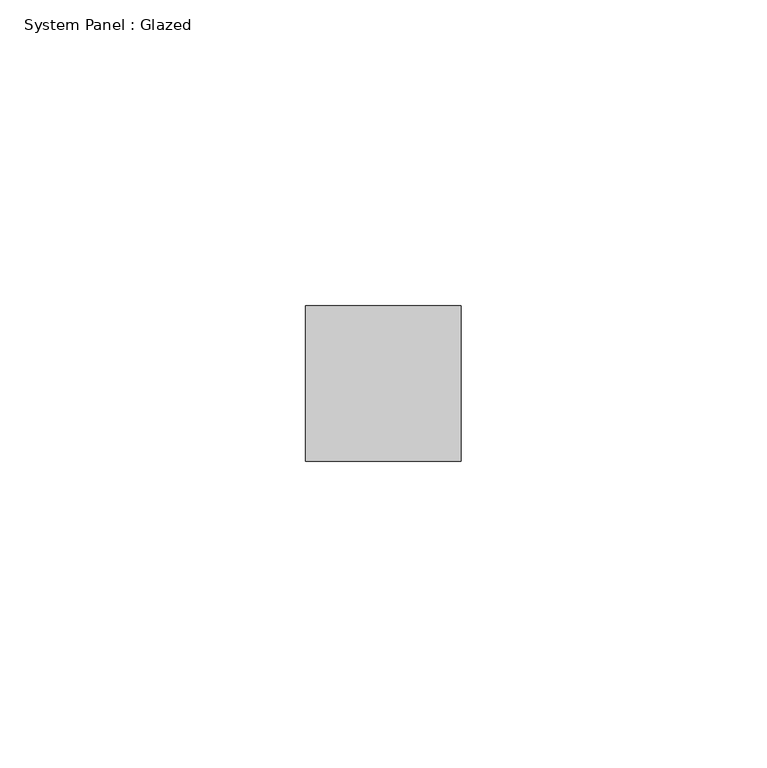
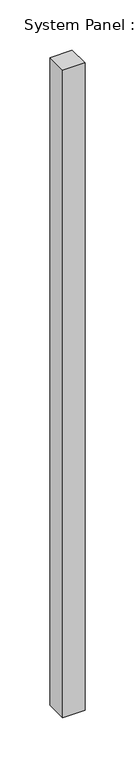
"""IFC4 building model written with IfcOpenShell, lengths in millimetres: plate geometry, System Panel : Glazed."""

import ifcopenshell
import ifcopenshell.guid

model = None  # the IFC model being written
_history = None  # IfcOwnerHistory: only IFC2X3 demands one
_inside = {}  # id of a spatial element -> (the spatial element, [elements in it])
_under = {}  # id of a project, library or spatial element -> (it, [spatial elements below it])
_declared = {}  # id of a project -> (the project, [libraries it declares])
_typed = {}  # id of a type object -> (the type object, [elements of that type])
_made_of = {}  # id of a material, layer set ... -> (it, [elements and type objects made of it])


def new_model(schema):
    """Start an empty IFC model of exactly this schema.

    Asked for "IFC4X3", IfcOpenShell would pick the latest addendum, in which some entities
    have other attributes; the version numbers below select the first issue.
    IFC2X3 requires an IfcOwnerHistory on every rooted entity: one is made here for all.
    """
    global model, _history
    if schema == "IFC4X3":
        model = ifcopenshell.file(schema_version=(4, 3, 0, 0))
    else:
        model = ifcopenshell.file(schema=schema)
    _inside.clear()
    _under.clear()
    _declared.clear()
    _typed.clear()
    _made_of.clear()
    _history = None
    if model.schema == "IFC2X3":
        org = make("IfcOrganization", Name="unknown")
        user = make(
            "IfcPersonAndOrganization",
            ThePerson=make("IfcPerson", FamilyName="unknown"),
            TheOrganization=org,
        )
        app = make(
            "IfcApplication",
            ApplicationDeveloper=org,
            Version="unknown",
            ApplicationFullName="unknown",
            ApplicationIdentifier="unknown",
        )
        _history = make(
            "IfcOwnerHistory",
            OwningUser=user,
            OwningApplication=app,
            ChangeAction="ADDED",
            CreationDate=0,
        )
    return model


def make(cls, **values):
    """One entity of the class cls with the attributes given. An attribute that is None is left unset."""
    return model.create_entity(
        cls, **{name: value for name, value in values.items() if value is not None}
    )


def rooted(cls, **values):
    """An entity with a GlobalId (a new one), such as an element, a storey or a relation."""
    return make(cls, GlobalId=ifcopenshell.guid.new(), OwnerHistory=_history, **values)


def si_unit(unit_type, name, prefix=None):
    """IfcSIUnit, for example si_unit("LENGTHUNIT", "METRE", prefix="MILLI")."""
    return make("IfcSIUnit", UnitType=unit_type, Prefix=prefix, Name=name)


def assignment(units):
    """IfcUnitAssignment: the units of a project."""
    return None if units is None else make("IfcUnitAssignment", Units=units)


def point(xyz):
    """IfcCartesianPoint."""
    return None if xyz is None else make("IfcCartesianPoint", Coordinates=xyz)


def direction(xyz):
    """IfcDirection."""
    return None if xyz is None else make("IfcDirection", DirectionRatios=xyz)


def frame(location, z_axis=None, x_axis=None):
    """IfcAxis2Placement3D, a coordinate frame: its origin and axes. An axis left out is left unset."""
    return make(
        "IfcAxis2Placement3D",
        Location=point(location),
        Axis=direction(z_axis),
        RefDirection=direction(x_axis),
    )


def origin():
    """The frame at (0, 0, 0) with its axes left unset."""
    return frame((0.0, 0.0, 0.0))


def origin_with_axes():
    """The frame at (0, 0, 0) with the z axis (0, 0, 1) and the x axis (1, 0, 0) written out."""
    return frame((0.0, 0.0, 0.0), z_axis=(0.0, 0.0, 1.0), x_axis=(1.0, 0.0, 0.0))


def place(relative_to, where):
    """IfcLocalPlacement: puts the frame where relative to a parent placement (None: the world)."""
    return make(
        "IfcLocalPlacement", PlacementRelTo=relative_to, RelativePlacement=where
    )


def context(
    kind, dimensions, precision=None, world=None, true_north=None, identifier=None
):
    """IfcGeometricRepresentationContext, for example the 3D "Model" context."""
    return make(
        "IfcGeometricRepresentationContext",
        ContextIdentifier=identifier,
        ContextType=kind,
        CoordinateSpaceDimension=dimensions,
        Precision=precision,
        WorldCoordinateSystem=world,
        TrueNorth=true_north,
    )


def project(units=None, contexts=None):
    """IfcProject with its units and contexts."""
    return rooted(
        "IfcProject",
        Name="project",
        RepresentationContexts=contexts,
        UnitsInContext=assignment(units),
    )


def spatial(cls, under=None, at=None, **own):
    """A site, building, storey or space (cls), placed at a placement, below another one or the project."""
    s = rooted(cls, ObjectPlacement=at, **own)
    if under is not None:
        _under.setdefault(under.id(), (under, []))[1].append(s)
    return s


def polyline(points):
    """IfcPolyline through the points."""
    return make("IfcPolyline", Points=[point(p) for p in points])


def outline(outer, holes=None, kind="AREA"):
    """IfcArbitraryClosedProfileDef: a profile drawn as a closed curve; with holes, ...WithVoids."""
    if holes is None:
        return make("IfcArbitraryClosedProfileDef", ProfileType=kind, OuterCurve=outer)
    return make(
        "IfcArbitraryProfileDefWithVoids",
        ProfileType=kind,
        OuterCurve=outer,
        InnerCurves=holes,
    )


def extrude(swept, where, along, depth):
    """IfcExtrudedAreaSolid: the profile swept, set in the frame where, extruded along a direction by depth."""
    return make(
        "IfcExtrudedAreaSolid",
        SweptArea=swept,
        Position=where,
        ExtrudedDirection=direction(along),
        Depth=depth,
    )


def shape(context_of_items, identifier, shape_type, items):
    """IfcShapeRepresentation: the items that make up one representation, for example the "Body"."""
    return make(
        "IfcShapeRepresentation",
        ContextOfItems=context_of_items,
        RepresentationIdentifier=identifier,
        RepresentationType=shape_type,
        Items=items,
    )


def source(mapping_origin, context_of_items, identifier, shape_type, items):
    """IfcRepresentationMap: a shape defined once, which mapped items show again and again."""
    return make(
        "IfcRepresentationMap",
        MappingOrigin=mapping_origin,
        MappedRepresentation=shape(context_of_items, identifier, shape_type, items),
    )


def transform(
    local_origin,
    x_axis=None,
    y_axis=None,
    z_axis=None,
    scale=None,
    scale2=None,
    scale3=None,
    uniform=True,
):
    """IfcCartesianTransformationOperator3D, or its non-uniform kind. x_axis, y_axis, z_axis: its Axis1, 2, 3."""
    if uniform:
        return make(
            "IfcCartesianTransformationOperator3D",
            Axis1=direction(x_axis),
            Axis2=direction(y_axis),
            LocalOrigin=point(local_origin),
            Scale=scale,
            Axis3=direction(z_axis),
        )
    return make(
        "IfcCartesianTransformationOperator3DnonUniform",
        Axis1=direction(x_axis),
        Axis2=direction(y_axis),
        LocalOrigin=point(local_origin),
        Scale=scale,
        Axis3=direction(z_axis),
        Scale2=scale2,
        Scale3=scale3,
    )


def mapped(mapping_source, mapping_target):
    """IfcMappedItem: shows the shape of a source again, moved by a transform."""
    return make(
        "IfcMappedItem", MappingSource=mapping_source, MappingTarget=mapping_target
    )


def made_of(thing, what):
    """Note that an element or type object is made of a material, layer set ...; save() writes the relation."""
    if what is not None:
        _made_of.setdefault(what.id(), (what, []))[1].append(thing)
    return thing


def element(
    cls,
    number,
    at=None,
    inside=None,
    cuts=None,
    type_object=None,
    material=None,
    context=None,
    identifier="Body",
    shape_type=None,
    held_by="IfcProductDefinitionShape",
    body=None,
    shapes=None,
    **own,
):
    """One element of the class cls, such as IfcWall. Its Tag is "e" and its number.

    at: its placement. inside: the storey or other place that contains it. cuts: it is an
    opening in that element (IfcRelVoidsElement). A single representation is given by context,
    identifier, shape_type and body (its items); several are given by shapes. held_by: the class
    of the entity that holds the representations. save() writes the other relations.
    """
    e = rooted(cls, Tag="e%d" % number, ObjectPlacement=at, **own)
    if body is not None:
        shapes = [shape(context, identifier, shape_type, body)]
    if shapes is not None:
        e.Representation = make(held_by, Representations=shapes)
    if inside is not None:
        _inside.setdefault(inside.id(), (inside, []))[1].append(e)
    if cuts is not None:
        rooted(
            "IfcRelVoidsElement", RelatingBuildingElement=cuts, RelatedOpeningElement=e
        )
    if type_object is not None:
        _typed.setdefault(type_object.id(), (type_object, []))[1].append(e)
    return made_of(e, material)


def aggregate(whole, parts):
    """IfcRelAggregates: a whole, such as a stair, and the parts it consists of."""
    return rooted("IfcRelAggregates", RelatingObject=whole, RelatedObjects=parts)


def save(model, path):
    """Write the relations noted so far, then the file.

    IfcRelAggregates (storeys below a building ...), IfcRelContainedInSpatialStructure (elements
    in a storey), IfcRelDefinesByType, IfcRelAssociatesMaterial and IfcRelDeclares: one each for
    every whole, place, type object, material and project.
    """
    for whole, parts in _under.values():
        aggregate(whole, parts)
    for where, things in _inside.values():
        rooted(
            "IfcRelContainedInSpatialStructure",
            RelatedElements=things,
            RelatingStructure=where,
        )
    for kind, things in _typed.values():
        rooted("IfcRelDefinesByType", RelatedObjects=things, RelatingType=kind)
    for what, things in _made_of.values():
        rooted("IfcRelAssociatesMaterial", RelatedObjects=things, RelatingMaterial=what)
    for by, libraries in _declared.values():
        rooted("IfcRelDeclares", RelatingContext=by, RelatedDefinitions=libraries)
    model.write(path)


def system_panel_glazed_b87cf22f(model_context):
    return source(origin(), model_context, "Body", "SweptSolid", [
        extrude(outline(polyline([(12.6999998, -44.45), (-12.6999998, -44.45), (-12.6999998, -19.05), (12.6999998, -19.05), (12.6999998, -44.45)])), origin_with_axes(), (0.0, 0.0, 1.0), 787.4),
    ])


if __name__ == "__main__":
    model = new_model("IFC4")
    model_context = context("Model", 3, world=origin())
    ifc_project = project(units=[si_unit("LENGTHUNIT", "METRE", prefix="MILLI")], contexts=[model_context])
    site = spatial("IfcSite", under=ifc_project)
    building = spatial("IfcBuilding", under=site)
    placement = place(None, origin())
    system_panel_glazed_shape = system_panel_glazed_b87cf22f(model_context)
    element("IfcPlate", 1, ObjectType="System Panel : Glazed", at=placement, inside=building, context=model_context, shape_type="MappedRepresentation", body=[
        mapped(system_panel_glazed_shape, transform((0.0, 0.0, 0.0), x_axis=(1.0, 0.0, 0.0), y_axis=(0.0, 1.0, 0.0), z_axis=(0.0, 0.0, 1.0))),
    ])
    save(model, "model.ifc")
